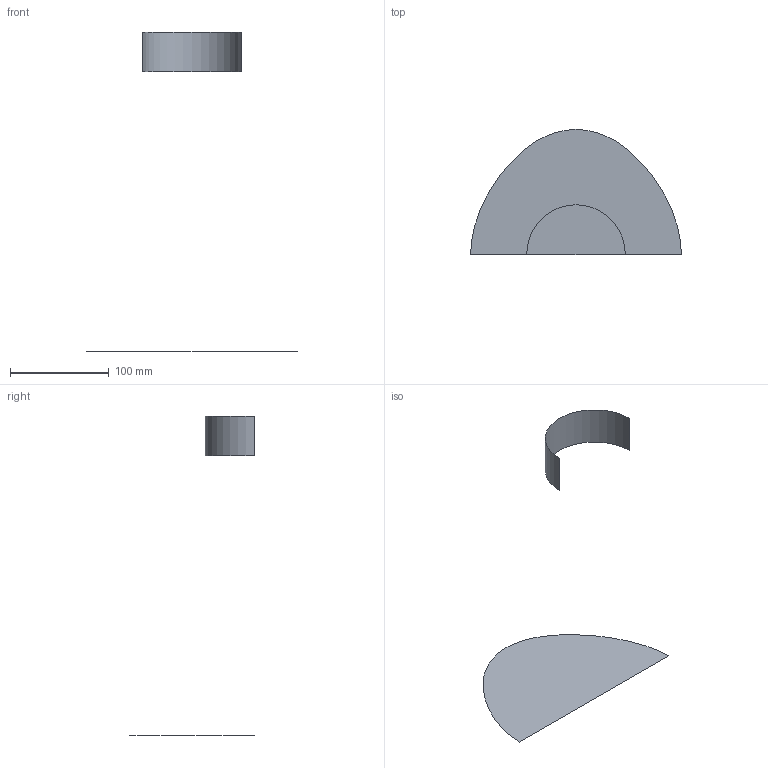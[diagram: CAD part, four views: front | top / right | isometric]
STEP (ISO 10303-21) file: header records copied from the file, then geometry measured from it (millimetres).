
FILE_DESCRIPTION(('CATIA V5 STEP Exchange'),'2;1');
FILE_NAME('C:\_Andres\UNIVERSIDAD\IQS\ASIGNATURAS\DAO\Controles\1617\c1\1original\Lopez_Triquell_Ej00-base_v17.stp','2017-02-06T16:27:43+00:00',('none'),('none'),'CATIA Version 5-6 Release 2014 SP1 HF18','CATIA V5 STEP AP203','none');
FILE_SCHEMA(('CONFIG_CONTROL_DESIGN'));
Length unit declared in the file: millimetre
Products named in the file (1): Lopez_Triquell_Ej00-base_v17
Bounding box: 214 x 127 x 324 mm (x, y, z)
Surface area: 26751.7 mm2 (no closed solid volume)
Topology: 0 solids, 2 shells, 2 faces, 16 edges, 26 vertices
Faces by surface type: cylinder 1, plane 1
Entity records: 230 total; most frequent: CARTESIAN_POINT 78, DIRECTION 16, COMPOSITE_CURVE_SEGMENT 9, TRIMMED_CURVE 9, AXIS2_PLACEMENT_3D 8, COMPOSITE_CURVE 7, ORIENTED_EDGE 7, EDGE_CURVE 7
